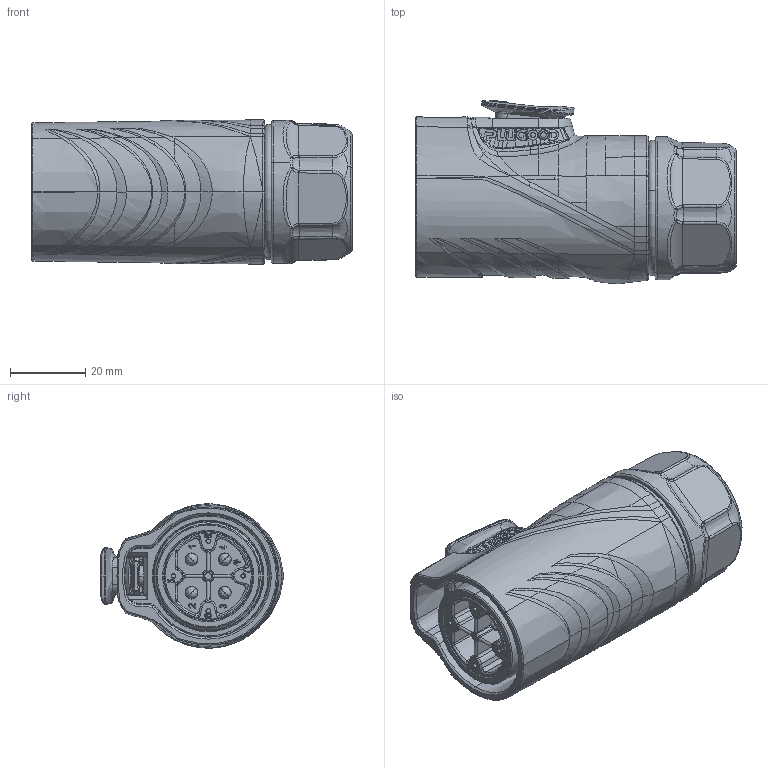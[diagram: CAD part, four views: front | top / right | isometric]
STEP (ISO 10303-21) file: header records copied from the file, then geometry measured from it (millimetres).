
FILE_DESCRIPTION (( 'STEP AP203' ), '1' );
FILE_NAME ('PLG28508304-REV1-1-PLG28 4+4郋眻芛脣芛.STEP', '2025-08-11T08:27:09', ( '' ), ( '' ), 'SwSTEP 2.0', 'SolidWorks 2015', '' );
FILE_SCHEMA (( 'CONFIG_CONTROL_DESIGN' ));
Length unit declared in the file: millimetre
Products named in the file (1): PLG28508304-REV1-1-PLG28 4+4郋眻芛脣芛
Bounding box: 85 x 48.66 x 38.3 mm (x, y, z)
Volume: 85421.8 mm3; surface area: 33094.7 mm2
Topology: 3 solids, 4 shells, 1909 faces, 5014 edges, 3140 vertices
Faces by surface type: bspline 809, plane 462, cylinder 443, torus 109, cone 86
Entity records: 158171 total; most frequent: CARTESIAN_POINT 118374, ORIENTED_EDGE 9968, DIRECTION 5762, EDGE_CURVE 4984, VERTEX_POINT 3140, B_SPLINE_CURVE_WITH_KNOTS 2269, AXIS2_PLACEMENT_3D 2143, EDGE_LOOP 1986
